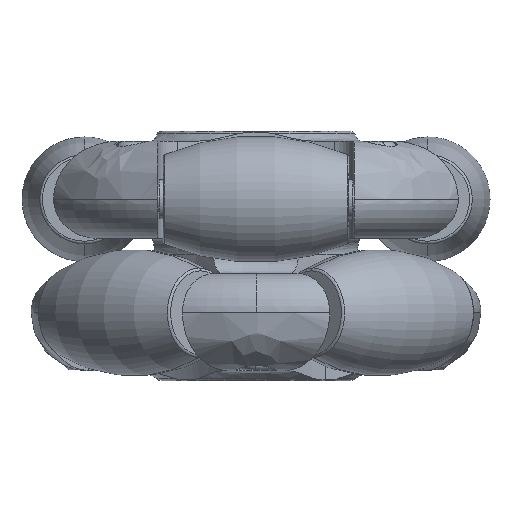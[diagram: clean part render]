
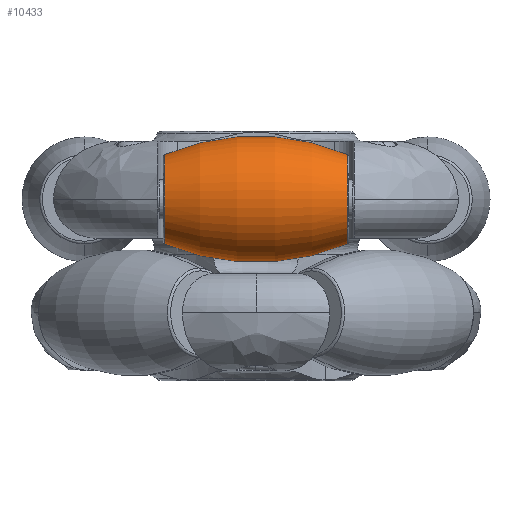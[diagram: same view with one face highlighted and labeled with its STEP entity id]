
A CAD part, front view. The second image highlights one B-rep face of the part: STEP entity #10433.
In plain terms, the highlighted toroidal (fillet/blend) face has major radius 17.55 mm and minor radius 24 mm.
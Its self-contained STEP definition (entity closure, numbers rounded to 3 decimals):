
#123 = AXIS2_PLACEMENT_3D ( 'NONE', #18472, #9765, #952 ) ;
#727 = ORIENTED_EDGE ( 'NONE', *, *, #5847, .T. ) ;
#952 = DIRECTION ( 'NONE',  ( 0., 0., 1. ) ) ;
#1458 = CARTESIAN_POINT ( 'NONE',  ( 0., 0., 0. ) ) ;
#1495 = DIRECTION ( 'NONE',  ( 0., 0., -1. ) ) ;
#1866 = CARTESIAN_POINT ( 'NONE',  ( -9.316, 0., -4.568 ) ) ;
#1915 = CIRCLE ( 'NONE', #18744, 4.568 ) ;
#2120 = DIRECTION ( 'NONE',  ( 0., 0., 1. ) ) ;
#2894 = CIRCLE ( 'NONE', #10070, 24. ) ;
#4186 = DIRECTION ( 'NONE',  ( 1., 0., 0. ) ) ;
#4282 = FACE_OUTER_BOUND ( 'NONE', #12112, .T. ) ;
#5847 = EDGE_CURVE ( 'NONE', #14237, #14661, #1915, .T. ) ;
#7156 = EDGE_CURVE ( 'NONE', #14479, #14089, #18220, .T. ) ;
#7287 = CARTESIAN_POINT ( 'NONE',  ( -9.316, 0., 0. ) ) ;
#7987 = CARTESIAN_POINT ( 'NONE',  ( 9.316, 0., 4.568 ) ) ;
#8053 = ORIENTED_EDGE ( 'NONE', *, *, #11553, .F. ) ;
#9765 = DIRECTION ( 'NONE',  ( -1., 0., 0. ) ) ;
#9803 = AXIS2_PLACEMENT_3D ( 'NONE', #1458, #14509, #14756 ) ;
#10070 = AXIS2_PLACEMENT_3D ( 'NONE', #15294, #18343, #2120 ) ;
#10433 = ADVANCED_FACE ( 'NONE', ( #4282 ), #14400, .T. ) ;
#11290 = AXIS2_PLACEMENT_3D ( 'NONE', #15925, #17349, #17697 ) ;
#11553 = EDGE_CURVE ( 'NONE', #14479, #14661, #17365, .T. ) ;
#12112 = EDGE_LOOP ( 'NONE', ( #14673, #16796, #727, #8053 ) ) ;
#12857 = EDGE_CURVE ( 'NONE', #14089, #14237, #2894, .T. ) ;
#14089 = VERTEX_POINT ( 'NONE', #14393 ) ;
#14237 = VERTEX_POINT ( 'NONE', #1866 ) ;
#14393 = CARTESIAN_POINT ( 'NONE',  ( 9.316, 0., -4.568 ) ) ;
#14400 = TOROIDAL_SURFACE ( 'NONE', #9803, -17.55, 24. ) ;
#14479 = VERTEX_POINT ( 'NONE', #7987 ) ;
#14509 = DIRECTION ( 'NONE',  ( -1., 0., 0. ) ) ;
#14543 = CARTESIAN_POINT ( 'NONE',  ( -9.316, 0., 4.568 ) ) ;
#14661 = VERTEX_POINT ( 'NONE', #14543 ) ;
#14673 = ORIENTED_EDGE ( 'NONE', *, *, #7156, .T. ) ;
#14756 = DIRECTION ( 'NONE',  ( 0., 0., 1. ) ) ;
#15294 = CARTESIAN_POINT ( 'NONE',  ( 0., 0., 17.55 ) ) ;
#15925 = CARTESIAN_POINT ( 'NONE',  ( 0., 0., -17.55 ) ) ;
#16796 = ORIENTED_EDGE ( 'NONE', *, *, #12857, .T. ) ;
#17349 = DIRECTION ( 'NONE',  ( 0., -1., 0. ) ) ;
#17365 = CIRCLE ( 'NONE', #11290, 24. ) ;
#17697 = DIRECTION ( 'NONE',  ( 0., 0., -1. ) ) ;
#18220 = CIRCLE ( 'NONE', #123, 4.568 ) ;
#18343 = DIRECTION ( 'NONE',  ( 0., 1., 0. ) ) ;
#18472 = CARTESIAN_POINT ( 'NONE',  ( 9.316, 0., 0. ) ) ;
#18744 = AXIS2_PLACEMENT_3D ( 'NONE', #7287, #4186, #1495 ) ;
